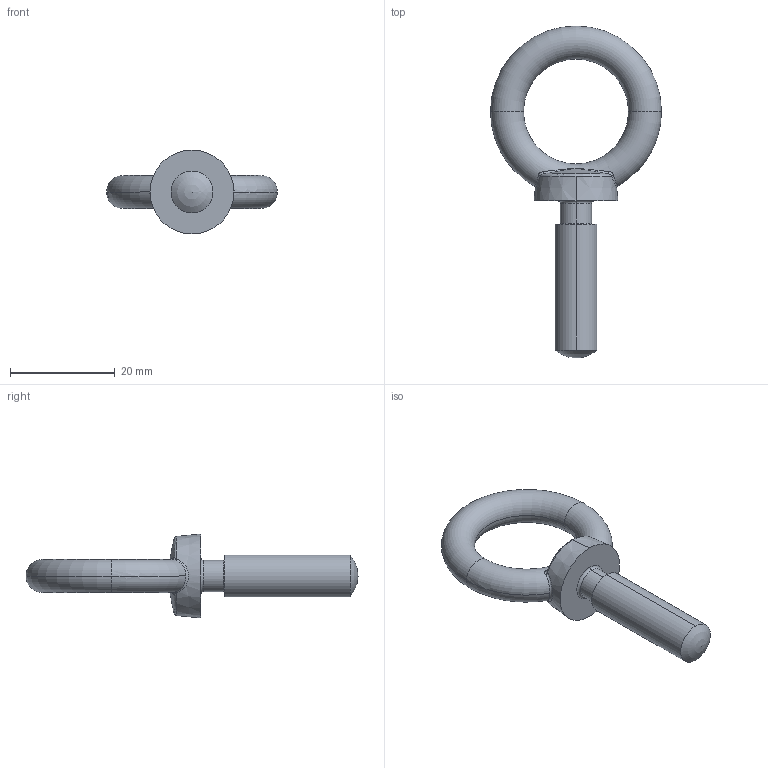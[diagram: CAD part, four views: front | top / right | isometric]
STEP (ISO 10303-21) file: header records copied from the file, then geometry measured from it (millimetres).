
FILE_DESCRIPTION (( 'STEP AP203' ), '1' );
FILE_NAME ('EB-901(S)-0830.STEP', '2013-07-03T08:31:09', ( 'SDS' ), ( 'SDS' ), 'SwSTEP 2.0', 'SolidWorks 2002296', '' );
FILE_SCHEMA (( 'CONFIG_CONTROL_DESIGN' ));
Length unit declared in the file: millimetre
Products named in the file (1): EB-901(S)-0830
Bounding box: 32.6 x 63.3 x 16 mm (x, y, z)
Volume: 4643.3 mm3; surface area: 2698.9 mm2
Topology: 1 solids, 1 shells, 31 faces, 72 edges, 42 vertices
Faces by surface type: torus 11, bspline 8, cone 5, cylinder 4, plane 2, sphere 1
Entity records: 6360 total; most frequent: CARTESIAN_POINT 5620, DIRECTION 141, ORIENTED_EDGE 138, EDGE_CURVE 69, AXIS2_PLACEMENT_3D 67, CIRCLE 43, VERTEX_POINT 40, EDGE_LOOP 33
